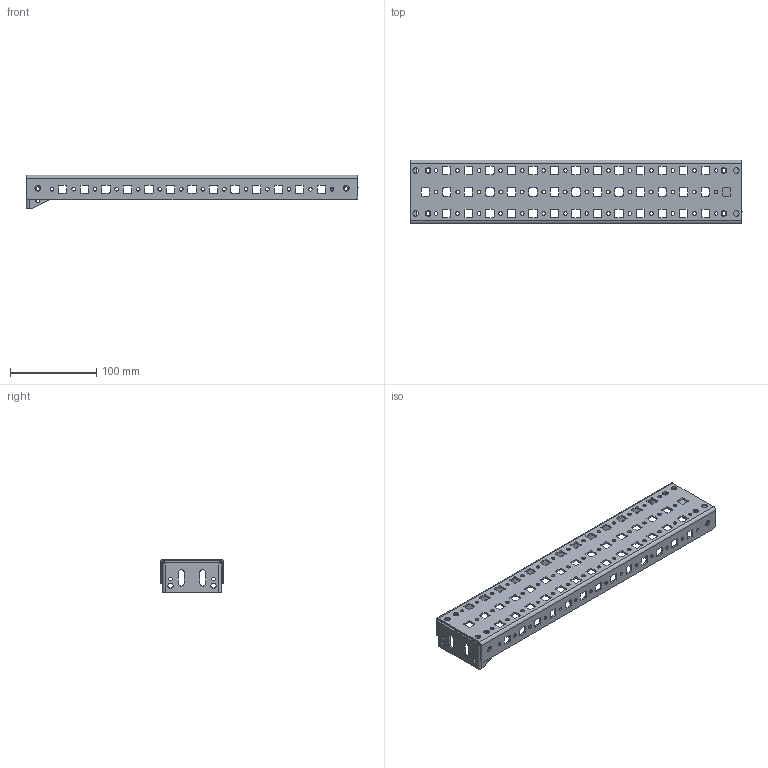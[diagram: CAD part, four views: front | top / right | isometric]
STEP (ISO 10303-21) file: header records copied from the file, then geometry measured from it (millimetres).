
FILE_DESCRIPTION(('STEP AP203'), '1');
FILE_NAME('MG 50.09 L Ðåéêà ìîíòàæíàÿ v2', '2021-05-20T07:18:00', ('UNSPECIFIED'), ('UNSPECIFIED'), 'ASCON STEP Converter 1.3', 'ASCON Math Kernel', '');
FILE_SCHEMA(('CONFIG_CONTROL_DESIGN'));
Length unit declared in the file: millimetre
Products named in the file (3): MG 50.09 L 01.001 Ðåéêà ìîíòàæíàÿ v2; MG 09 L 01.002 Êðîíøòåéí ðåéêè ìîíòàæíîé v2
Assembly tree (3 placements, depth 2):
  (unnamed)
    MG 50.09 L 01.001 Ðåéêà ìîíòàæíàÿ v2
    MG 09 L 01.002 Êðîíøòåéí ðåéêè ìîíòàæíîé v2  x2
Bounding box: 385.55 x 74.15 x 39 mm (x, y, z)
Volume: 97097.4 mm3; surface area: 109146.2 mm2
Topology: 3 solids, 3 shells, 780 faces, 2242 edges, 1468 vertices
Faces by surface type: cylinder 414, plane 358, bspline 8
Full cylindrical faces by diameter (mm): 4.2 x94, 6 x4, 6.5 x12
Entity records: 30696 total; most frequent: CARTESIAN_POINT 5000, DIRECTION 4154, ORIENTED_EDGE 3960, EDGE_CURVE 1980, AXIS2_PLACEMENT_3D 1472, VERTEX_POINT 1368, LINE 1210, VECTOR 1210
